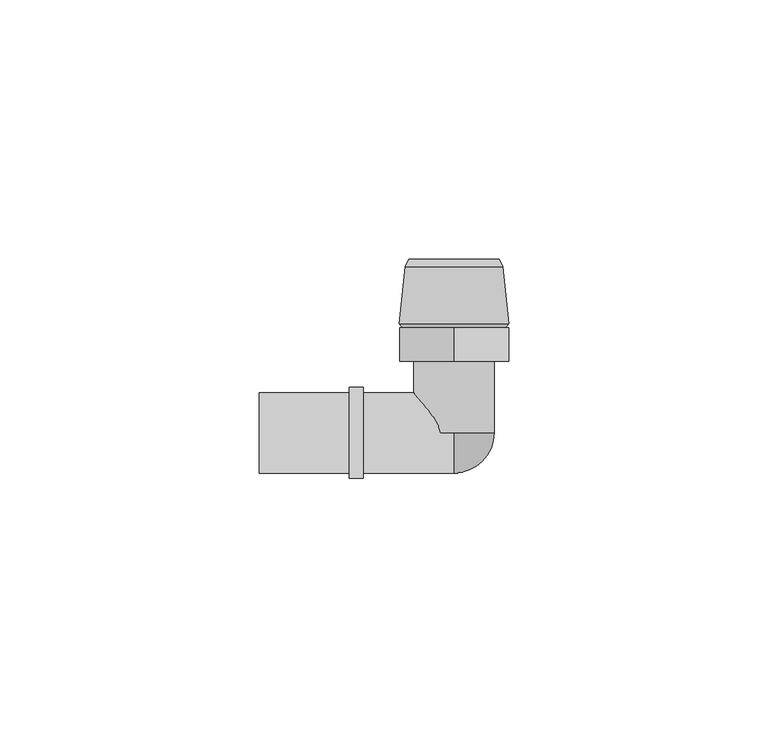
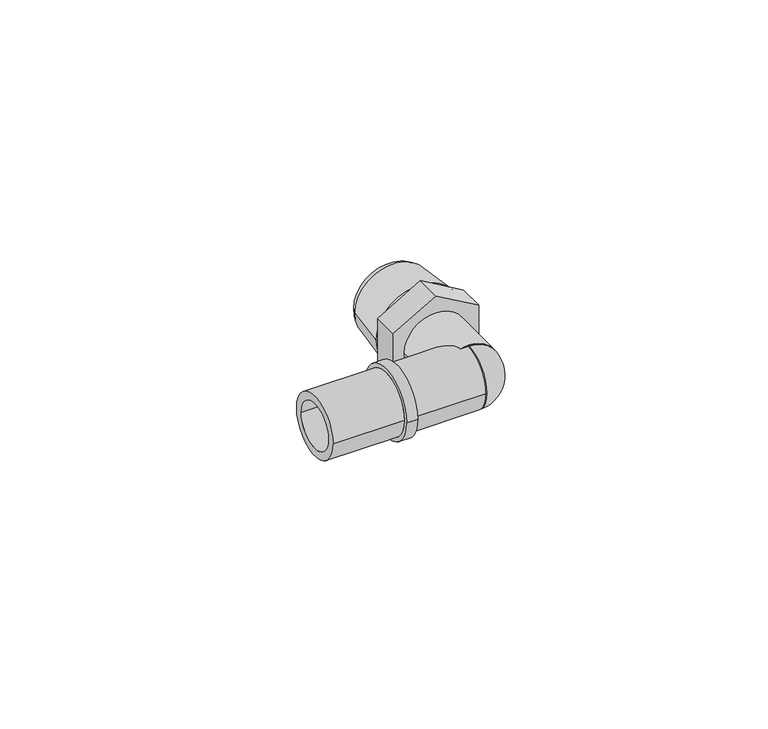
"""IFC4 building model written with IfcOpenShell, lengths in millimetres: pipe fitting geometry, FASTLOC_Elbow with male thread LX : FSL A internal PL."""

from ifc_helpers import new_model, si_unit, point, frame, origin, origin_2d, place, context, project, spatial, polyline, circle_curve, ellipse_curve, trimmed, segment, composite_curve, outline, extrude, source, transform, mapped, element, save
from ifc_brep_helpers import plane_surface, cylinder_surface, revolved_surface, advanced_brep


def pipe_fitting_57945d78(model_context):
    return source(origin(), model_context, "Body", "SolidModel", [
        extrude(outline(composite_curve([segment(trimmed(circle_curve(origin_2d(), 7.75), [point((0.0, -7.75))], [point((0.0, 7.75))], False, "CARTESIAN"), True, "CONTINUOUS"), segment(trimmed(circle_curve(origin_2d(), 7.75), [point((0.0, 7.75))], [point((0.0, -7.75))], False, "CARTESIAN"), True, "CONTINUOUS")], self_intersect=False), holes=[composite_curve([segment(trimmed(circle_curve(origin_2d(), 5.75), [point((0.0, -5.75))], [point((0.0, 5.75))], True, "CARTESIAN"), True, "CONTINUOUS"), segment(trimmed(circle_curve(origin_2d(), 5.75), [point((0.0, 5.75))], [point((0.0, -5.75))], True, "CARTESIAN"), True, "CONTINUOUS")], self_intersect=False)]), frame((0.0, 0.0, 0.0), z_axis=(0.0, 1.0, 0.0), x_axis=(0.0, 0.0, 1.0)), (0.0, 0.0, 1.0), 13.8),
        extrude(outline(polyline([(-6.0621778, 10.5), (6.0621778, 10.5), (12.1243557, 0.0), (6.0621778, -10.5), (-6.0621778, -10.5), (-12.1243557, 0.0), (-6.0621778, 10.5)])), frame((0.0, 13.8, 0.0), z_axis=(0.0, 1.0, 0.0), x_axis=(0.0, 0.0, 1.0)), (0.0, 0.0, 1.0), 6.5),
        advanced_brep(
        [(0.0, -7.75, 0.0), (0.0, 0.0, 7.75), (0.0, 0.0, 6.0), (0.0, -6.0, 0.0), (0.0, 0.0, -6.0), (0.0, 0.0, -7.75)],
        [
            (0, 1, circle_curve(frame((0.0, 0.0, 0.0), z_axis=(-1.0, 0.0, 0.0), x_axis=(0.0, 0.0, 1.0)), 7.75)),
            (1, 2),
            (2, 3, circle_curve(frame((0.0, 0.0, 0.0), z_axis=(1.0, 0.0, 0.0), x_axis=(0.0, 0.0, 1.0)), 6.0)),
            (3, 0),
            (3, 4, circle_curve(frame((0.0, 0.0, 0.0), z_axis=(1.0, 0.0, 0.0), x_axis=(0.0, 0.0, -1.0)), 6.0)),
            (4, 5),
            (5, 0, circle_curve(frame((0.0, 0.0, 0.0), z_axis=(-1.0, 0.0, 0.0), x_axis=(0.0, 0.0, -1.0)), 7.75)),
            (5, 1, circle_curve(frame((0.0, 0.0, 0.0), z_axis=(0.0, -1.0, 0.0), x_axis=(0.0, 0.0, 1.0)), 7.75)),
            (4, 2, circle_curve(frame((0.0, 0.0, 0.0), z_axis=(0.0, -1.0, 0.0), x_axis=(0.0, 0.0, 1.0)), 6.0)),
        ],
        [
            plane_surface(frame((0.0, 0.0, 0.0), z_axis=(-1.0, 0.0, 0.0), x_axis=(0.0, 0.0, 1.0))),
            plane_surface(frame((0.0, 0.0, 0.0), z_axis=(-1.0, 0.0, 0.0), x_axis=(0.0, 0.0, -1.0))),
            revolved_surface(trimmed(ellipse_curve(frame((0.0, 0.0, 0.0), z_axis=(-1.0, 0.0, 0.0), x_axis=(0.0, 0.0, 1.0)), 7.75, 7.75), [point((0.0, -7.75, 0.0))], [point((0.0, 0.0, 7.75))], True, "CARTESIAN"), (0.0, 0.0, 0.0), (0.0, 1.0, 0.0)),
            plane_surface(frame((0.0, 0.0, 0.0), z_axis=(0.0, 1.0, 0.0), x_axis=(0.0, 0.0, 1.0))),
            revolved_surface(trimmed(ellipse_curve(frame((0.0, 0.0, 0.0), z_axis=(1.0, 0.0, 0.0), x_axis=(0.0, 0.0, 1.0)), 6.0, 6.0), [point((0.0, 0.0, 6.0))], [point((0.0, -6.0, 0.0))], True, "CARTESIAN"), (0.0, 0.0, 0.0), (0.0, 1.0, 0.0)),
        ],
        [
            (0, [[1, 2, 3, 4]]),
            (1, [[5, 6, 7, -4]]),
            (2, [[8, -1, -7]]),
            (3, [[9, -2, -8, -6]]),
            (4, [[-3, -9, -5]]),
        ],
    ),
        advanced_brep(
        [(9.4, 32.0000007, 0.0), (-9.4, 32.0000007, 0.0), (-8.75, 33.5, 0.0), (8.75, 33.5, 0.0), (10.55, 21.0406902, 0.0), (-10.55, 21.0406902, 0.0), (10.0, 20.3, 0.0), (-10.0, 20.3, 0.0), (7.0, 21.4032803, 0.0), (-7.0, 21.4032803, 0.0), (-5.8967197, 20.3, 0.0), (5.8967197, 20.3, 0.0), (7.0, 33.5, 0.0), (-7.0, 33.5, 0.0)],
        [
            (0, 1, circle_curve(frame((0.0, 32.0000007, 0.0), z_axis=(0.0, 1.0, 0.0), x_axis=(-1.0, 0.0, 0.0)), 9.4)),
            (1, 2),
            (2, 3, circle_curve(frame((0.0, 33.5, 0.0), z_axis=(0.0, -1.0, 0.0), x_axis=(-1.0, 0.0, 0.0)), 8.75)),
            (3, 0),
            (4, 5, circle_curve(frame((0.0, 21.0406902, 0.0), z_axis=(0.0, 1.0, 0.0), x_axis=(-1.0, 0.0, 0.0)), 10.55)),
            (5, 1),
            (0, 4),
            (6, 7, circle_curve(frame((0.0, 20.3, 0.0), z_axis=(0.0, 1.0, 0.0), x_axis=(-1.0, 0.0, 0.0)), 10.0)),
            (7, 5),
            (4, 6),
            (8, 9, circle_curve(frame((0.0, 21.4032803, 0.0), z_axis=(0.0, 1.0, 0.0), x_axis=(-1.0, 0.0, 0.0)), 7.0)),
            (9, 10),
            (10, 11, circle_curve(frame((0.0, 20.3, 0.0), z_axis=(0.0, -1.0, 0.0), x_axis=(-1.0, 0.0, 0.0)), 5.8967197)),
            (11, 8),
            (12, 13, circle_curve(frame((0.0, 33.5, 0.0), z_axis=(0.0, 1.0, 0.0), x_axis=(-1.0, 0.0, 0.0)), 7.0)),
            (13, 9),
            (8, 12),
            (2, 3, circle_curve(frame((0.0, 33.5, 0.0), z_axis=(0.0, 1.0, 0.0), x_axis=(1.0, 0.0, 0.0)), 8.75)),
            (12, 13, circle_curve(frame((0.0, 33.5, 0.0), z_axis=(0.0, -1.0, 0.0), x_axis=(1.0, 0.0, 0.0)), 7.0)),
            (1, 0, circle_curve(frame((0.0, 32.0000007, 0.0), z_axis=(0.0, 1.0, 0.0), x_axis=(1.0, 0.0, 0.0)), 9.4)),
            (5, 4, circle_curve(frame((0.0, 21.0406902, 0.0), z_axis=(0.0, 1.0, 0.0), x_axis=(1.0, 0.0, 0.0)), 10.55)),
            (7, 6, circle_curve(frame((0.0, 20.3, 0.0), z_axis=(0.0, 1.0, 0.0), x_axis=(1.0, 0.0, 0.0)), 10.0)),
            (10, 11, circle_curve(frame((0.0, 20.3, 0.0), z_axis=(0.0, 1.0, 0.0), x_axis=(1.0, 0.0, 0.0)), 5.8967197)),
            (9, 8, circle_curve(frame((0.0, 21.4032803, 0.0), z_axis=(0.0, 1.0, 0.0), x_axis=(1.0, 0.0, 0.0)), 7.0)),
        ],
        [
            revolved_surface(polyline([(-8.75, 33.5, 0.0), (-9.4, 32.0000007, 0.0)]), (0.0, 13.8, 0.0), (0.0, -1.0, 0.0)),
            revolved_surface(polyline([(-9.4, 32.0000007, 0.0), (-10.55, 21.0406902, 0.0)]), (0.0, 13.8, 0.0), (0.0, -1.0, 0.0)),
            revolved_surface(polyline([(-10.55, 21.0406902, 0.0), (-10.0, 20.3, 0.0)]), (0.0, 13.8, 0.0), (0.0, -1.0, 0.0)),
            revolved_surface(polyline([(-5.8967197, 20.3, 0.0), (-7.0, 21.4032803, 0.0)]), (0.0, 13.8, 0.0), (0.0, -1.0, 0.0)),
            revolved_surface(polyline([(-7.0, 21.4032803, 0.0), (-7.0, 33.5, 0.0)]), (0.0, 13.8, 0.0), (0.0, -1.0, 0.0)),
            plane_surface(frame((0.0, 33.5, 0.0), z_axis=(0.0, 1.0, 0.0), x_axis=(1.0, 0.0, 0.0))),
            revolved_surface(polyline([(8.75, 33.5, 0.0), (9.4, 32.0000007, 0.0)]), (0.0, 13.8, 0.0), (0.0, -1.0, 0.0)),
            revolved_surface(polyline([(9.4, 32.0000007, 0.0), (10.55, 21.0406902, 0.0)]), (0.0, 13.8, 0.0), (0.0, -1.0, 0.0)),
            revolved_surface(polyline([(10.55, 21.0406902, 0.0), (10.0, 20.3, 0.0)]), (0.0, 13.8, 0.0), (0.0, -1.0, 0.0)),
            plane_surface(frame((0.0, 20.3, 0.0), z_axis=(0.0, -1.0, 0.0), x_axis=(1.0, 0.0, 0.0))),
            revolved_surface(polyline([(5.8967197, 20.3, 0.0), (7.0, 21.4032803, 0.0)]), (0.0, 13.8, 0.0), (0.0, -1.0, 0.0)),
            revolved_surface(polyline([(7.0, 21.4032803, 0.0), (7.0, 33.5, 0.0)]), (0.0, 13.8, 0.0), (0.0, -1.0, 0.0)),
        ],
        [
            (0, [[1, 2, 3, 4]]),
            (1, [[5, 6, -1, 7]]),
            (2, [[8, 9, -5, 10]]),
            (3, [[11, 12, 13, 14]]),
            (4, [[15, 16, -11, 17]]),
            (5, [[18, -3], [19, -15]]),
            (6, [[20, -4, -18, -2]]),
            (7, [[21, -7, -20, -6]]),
            (8, [[22, -10, -21, -9]]),
            (9, [[-22, -8], [23, -13]]),
            (10, [[24, -14, -23, -12]]),
            (11, [[-19, -17, -24, -16]]),
        ],
    ),
        advanced_brep(
        [(-20.2, 7.75, 0.0), (-20.2, -7.75, 0.0), (-37.6, -7.75, 0.0), (-37.6, 7.75, 0.0), (-17.5, 8.8, 0.0), (-17.5, -8.8, 0.0), (-20.2, -8.8, 0.0), (-20.2, 8.8, 0.0), (0.0, 7.75, 0.0), (0.0, -7.75, 0.0), (-17.5, -7.75, 0.0), (-17.5, 7.75, 0.0), (-37.6, 5.75, 0.0), (-37.6, -5.75, 0.0), (0.0, -5.75, 0.0), (0.0, 5.75, 0.0)],
        [
            (0, 1, circle_curve(frame((-20.2, 0.0, 0.0), z_axis=(-1.0, 0.0, 0.0), x_axis=(0.0, -1.0, 0.0)), 7.75)),
            (1, 2),
            (2, 3, circle_curve(frame((-37.6, 0.0, 0.0), z_axis=(1.0, 0.0, 0.0), x_axis=(0.0, -1.0, 0.0)), 7.75)),
            (3, 0),
            (4, 5, circle_curve(frame((-17.5, 0.0, 0.0), z_axis=(-1.0, 0.0, 0.0), x_axis=(0.0, -1.0, 0.0)), 8.8)),
            (5, 6),
            (6, 7, circle_curve(frame((-20.2, 0.0, 0.0), z_axis=(1.0, 0.0, 0.0), x_axis=(0.0, -1.0, 0.0)), 8.8)),
            (7, 4),
            (8, 9, circle_curve(frame((0.0, 0.0, 0.0), z_axis=(-1.0, 0.0, 0.0), x_axis=(0.0, -1.0, 0.0)), 7.75)),
            (9, 10),
            (10, 11, circle_curve(frame((-17.5, 0.0, 0.0), z_axis=(1.0, 0.0, 0.0), x_axis=(0.0, -1.0, 0.0)), 7.75)),
            (11, 8),
            (12, 13, circle_curve(frame((-37.6, 0.0, 0.0), z_axis=(-1.0, 0.0, 0.0), x_axis=(0.0, -1.0, 0.0)), 5.75)),
            (13, 14),
            (14, 15, circle_curve(frame((0.0, 0.0, 0.0), z_axis=(1.0, 0.0, 0.0), x_axis=(0.0, -1.0, 0.0)), 5.75)),
            (15, 12),
            (2, 3, circle_curve(frame((-37.6, 0.0, 0.0), z_axis=(-1.0, 0.0, 0.0), x_axis=(0.0, 1.0, 0.0)), 7.75)),
            (12, 13, circle_curve(frame((-37.6, 0.0, 0.0), z_axis=(1.0, 0.0, 0.0), x_axis=(0.0, 1.0, 0.0)), 5.75)),
            (1, 0, circle_curve(frame((-20.2, 0.0, 0.0), z_axis=(-1.0, 0.0, 0.0), x_axis=(0.0, 1.0, 0.0)), 7.75)),
            (6, 7, circle_curve(frame((-20.2, 0.0, 0.0), z_axis=(-1.0, 0.0, 0.0), x_axis=(0.0, 1.0, 0.0)), 8.8)),
            (5, 4, circle_curve(frame((-17.5, 0.0, 0.0), z_axis=(-1.0, 0.0, 0.0), x_axis=(0.0, 1.0, 0.0)), 8.8)),
            (10, 11, circle_curve(frame((-17.5, 0.0, 0.0), z_axis=(-1.0, 0.0, 0.0), x_axis=(0.0, 1.0, 0.0)), 7.75)),
            (9, 8, circle_curve(frame((0.0, 0.0, 0.0), z_axis=(-1.0, 0.0, 0.0), x_axis=(0.0, 1.0, 0.0)), 7.75)),
            (14, 15, circle_curve(frame((0.0, 0.0, 0.0), z_axis=(-1.0, 0.0, 0.0), x_axis=(0.0, 1.0, 0.0)), 5.75)),
        ],
        [
            cylinder_surface(frame((0.0, 0.0, 0.0), z_axis=(1.0, 0.0, 0.0), x_axis=(0.0, -1.0, 0.0)), 7.75),
            cylinder_surface(frame((0.0, 0.0, 0.0), z_axis=(1.0, 0.0, 0.0), x_axis=(0.0, -1.0, 0.0)), 8.8),
            revolved_surface(polyline([(0.0, -5.75, 0.0), (-37.6, -5.75, 0.0)]), (0.0, 0.0, 0.0), (1.0, 0.0, 0.0)),
            plane_surface(frame((-37.6, 0.0, 0.0), z_axis=(-1.0, 0.0, 0.0), x_axis=(0.0, 1.0, 0.0))),
            cylinder_surface(frame((0.0, 0.0, 0.0), z_axis=(1.0, 0.0, 0.0), x_axis=(0.0, 1.0, 0.0)), 7.75),
            plane_surface(frame((-20.2, 0.0, 0.0), z_axis=(-1.0, 0.0, 0.0), x_axis=(0.0, 1.0, 0.0))),
            cylinder_surface(frame((0.0, 0.0, 0.0), z_axis=(1.0, 0.0, 0.0), x_axis=(0.0, 1.0, 0.0)), 8.8),
            plane_surface(frame((-17.5, 0.0, 0.0), z_axis=(1.0, 0.0, 0.0), x_axis=(0.0, 1.0, 0.0))),
            plane_surface(frame((0.0, 0.0, 0.0), z_axis=(1.0, 0.0, 0.0), x_axis=(0.0, 1.0, 0.0))),
            revolved_surface(polyline([(0.0, 5.75, 0.0), (-37.6, 5.75, 0.0)]), (0.0, 0.0, 0.0), (1.0, 0.0, 0.0)),
        ],
        [
            (0, [[1, 2, 3, 4]]),
            (1, [[5, 6, 7, 8]]),
            (0, [[9, 10, 11, 12]]),
            (2, [[13, 14, 15, 16]]),
            (3, [[17, -3], [18, -13]]),
            (4, [[19, -4, -17, -2]]),
            (5, [[20, -7], [-19, -1]]),
            (6, [[21, -8, -20, -6]]),
            (7, [[-21, -5], [22, -11]]),
            (4, [[23, -12, -22, -10]]),
            (8, [[-23, -9], [24, -15]]),
            (9, [[-18, -16, -24, -14]]),
        ],
    ),
    ])


if __name__ == "__main__":
    model = new_model("IFC4")
    model_context = context("Model", 3, world=origin())
    ifc_project = project(units=[si_unit("LENGTHUNIT", "METRE", prefix="MILLI")], contexts=[model_context])
    site = spatial("IfcSite", under=ifc_project)
    building = spatial("IfcBuilding", under=site)
    placement = place(None, origin())
    pipe_fitting_shape = pipe_fitting_57945d78(model_context)
    element("IfcPipeFitting", 1, ObjectType="FASTLOC_Elbow with male thread LX : FSL A internal PL", at=placement, inside=building, context=model_context, shape_type="MappedRepresentation", body=[
        mapped(pipe_fitting_shape, transform((0.0, 0.0, 0.0), x_axis=(1.0, 0.0, 0.0), y_axis=(0.0, 1.0, 0.0), z_axis=(0.0, 0.0, 1.0))),
    ])
    save(model, "model.ifc")
